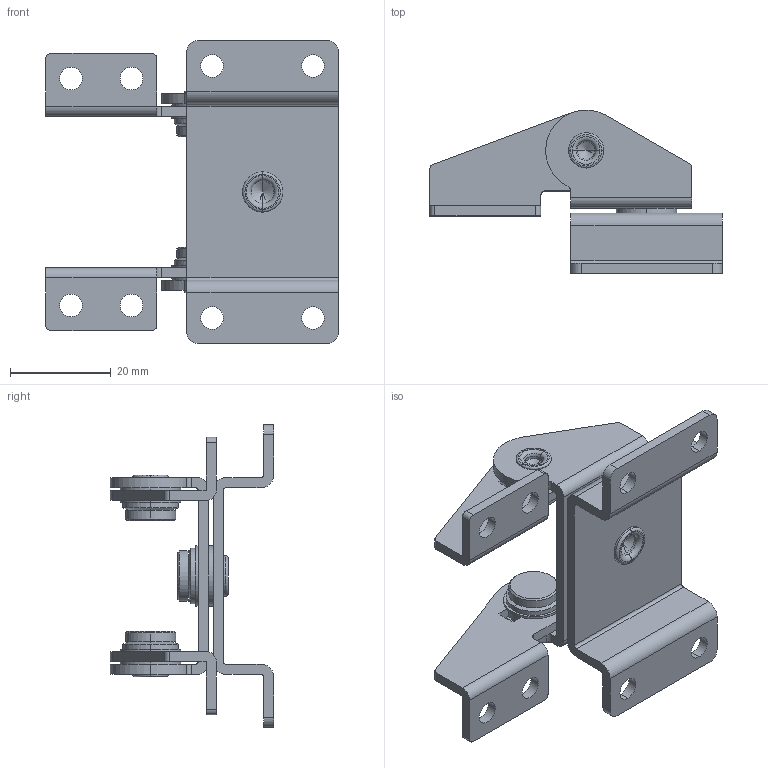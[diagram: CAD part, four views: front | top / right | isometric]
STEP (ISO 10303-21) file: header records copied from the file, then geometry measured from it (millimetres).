
FILE_DESCRIPTION (( 'STEP AP203' ), '1' );
FILE_NAME ('XG11-005.STEP', '2025-04-17T09:15:44', ( '微软用户' ), ( '微软中国' ), 'SwSTEP 2.0', 'SolidWorks 2024', '' );
FILE_SCHEMA (( 'CONFIG_CONTROL_DESIGN' ));
Length unit declared in the file: millimetre
Products named in the file (1): XG11-005
Bounding box: 58 x 32.42 x 60 mm (x, y, z)
Volume: 11735.7 mm3; surface area: 15238.6 mm2
Topology: 16 solids, 16 shells, 254 faces, 618 edges, 399 vertices
Faces by surface type: cylinder 138, plane 86, cone 18, torus 12
Entity records: 7667 total; most frequent: DIRECTION 1434, CARTESIAN_POINT 1266, ORIENTED_EDGE 1224, EDGE_CURVE 612, AXIS2_PLACEMENT_3D 567, VERTEX_POINT 399, EDGE_LOOP 317, CIRCLE 312
